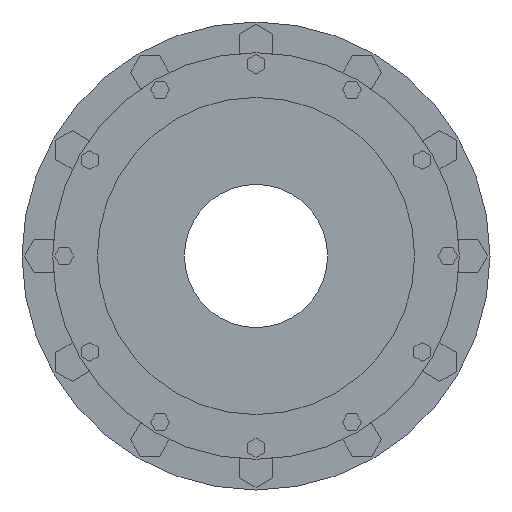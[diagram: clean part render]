
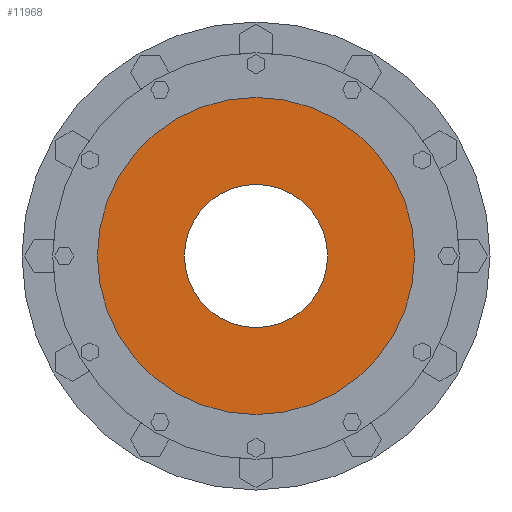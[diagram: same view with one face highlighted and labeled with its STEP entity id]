
A CAD part, left-side view. The second image highlights one B-rep face of the part: STEP entity #11968.
In plain terms, the highlighted planar face has unit normal (-1, 0, 0).
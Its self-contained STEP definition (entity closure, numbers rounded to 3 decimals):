
#11666=CARTESIAN_POINT('',(-432.5,0.,0.));
#11667=DIRECTION('',(1.,0.,0.));
#11668=DIRECTION('',(0.,1.,0.));
#11669=AXIS2_PLACEMENT_3D('',#11666,#11667,#11668);
#11745=CARTESIAN_POINT('',(-432.5,0.,0.));
#11746=DIRECTION('',(-1.,0.,0.));
#11747=DIRECTION('',(0.,1.,0.));
#11748=AXIS2_PLACEMENT_3D('',#11745,#11746,#11747);
#11750=CARTESIAN_POINT('',(-432.5,0.,0.));
#11751=DIRECTION('',(1.,0.,0.));
#11752=DIRECTION('',(0.,1.,0.));
#11753=AXIS2_PLACEMENT_3D('',#11750,#11751,#11752);
#11764=CARTESIAN_POINT('',(-432.5,0.,0.));
#11765=DIRECTION('',(-1.,0.,0.));
#11766=DIRECTION('',(0.,1.,0.));
#11767=AXIS2_PLACEMENT_3D('',#11764,#11765,#11766);
#11773=CARTESIAN_POINT('',(-432.5,140.,0.));
#11774=CARTESIAN_POINT('',(-432.5,-140.,0.));
#11775=VERTEX_POINT('',#11773);
#11776=VERTEX_POINT('',#11774);
#11777=CARTESIAN_POINT('',(-432.5,310.,0.));
#11778=CARTESIAN_POINT('',(-432.5,-310.,0.));
#11779=VERTEX_POINT('',#11777);
#11780=VERTEX_POINT('',#11778);
#11954=CARTESIAN_POINT('',(-432.5,0.,0.));
#11955=DIRECTION('',(1.,0.,0.));
#11956=DIRECTION('',(0.,-1.,0.));
#11957=AXIS2_PLACEMENT_3D('',#11954,#11955,#11956);
#11958=PLANE('',#11957);
#11959=ORIENTED_EDGE('',*,*,#11936,.F.);
#11960=ORIENTED_EDGE('',*,*,#11949,.T.);
#11961=EDGE_LOOP('',(#11959,#11960));
#11962=FACE_OUTER_BOUND('',#11961,.F.);
#11963=ORIENTED_EDGE('',*,*,#11814,.F.);
#11965=ORIENTED_EDGE('',*,*,#11964,.T.);
#11966=EDGE_LOOP('',(#11963,#11965));
#11967=FACE_BOUND('',#11966,.F.);
#11968=ADVANCED_FACE('',(#11962,#11967),#11958,.F.);
#11670=CIRCLE('',#11669,140.);
#11749=CIRCLE('',#11748,310.);
#11754=CIRCLE('',#11753,310.);
#11768=CIRCLE('',#11767,140.);
#11814=EDGE_CURVE('',#11775,#11776,#11670,.T.);
#11936=EDGE_CURVE('',#11779,#11780,#11749,.T.);
#11949=EDGE_CURVE('',#11779,#11780,#11754,.T.);
#11964=EDGE_CURVE('',#11775,#11776,#11768,.T.);
